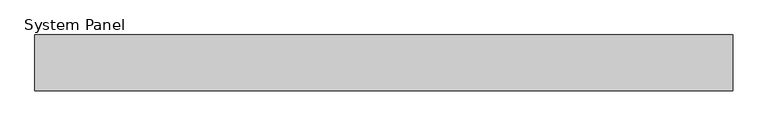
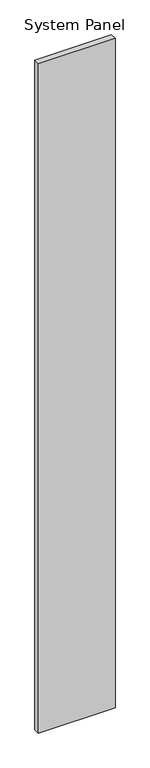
"""IFC4 building model written with IfcOpenShell, lengths in millimetres: plate geometry, System Panel : MetecnoSpan_80mm_Vertical_Plain_Surfmist."""

from ifc_helpers import new_model, si_unit, origin, origin_with_axes, place, context, project, spatial, polyline, outline, extrude, source, transform, mapped, element, save


def system_panel_bf3a755d(model_context):
    return source(origin(), model_context, "Body", "SweptSolid", [
        extrude(outline(polyline([(500.0, -80.0), (-500.0, -80.0), (-500.0, 0.0), (500.0, 0.0), (500.0, -80.0)])), origin_with_axes(), (0.0, 0.0, 1.0), 9240.3821682),
    ])


if __name__ == "__main__":
    model = new_model("IFC4")
    model_context = context("Model", 3, world=origin())
    ifc_project = project(units=[si_unit("LENGTHUNIT", "METRE", prefix="MILLI")], contexts=[model_context])
    site = spatial("IfcSite", under=ifc_project)
    building = spatial("IfcBuilding", under=site)
    placement = place(None, origin())
    system_panel_shape = system_panel_bf3a755d(model_context)
    element("IfcPlate", 1, ObjectType="System Panel : MetecnoSpan_80mm_Vertical_Plain_Surfmist", at=placement, inside=building, context=model_context, shape_type="MappedRepresentation", body=[
        mapped(system_panel_shape, transform((0.0, 0.0, 0.0), x_axis=(1.0, 0.0, 0.0), y_axis=(0.0, 1.0, 0.0), z_axis=(0.0, 0.0, 1.0))),
    ])
    save(model, "model.ifc")
